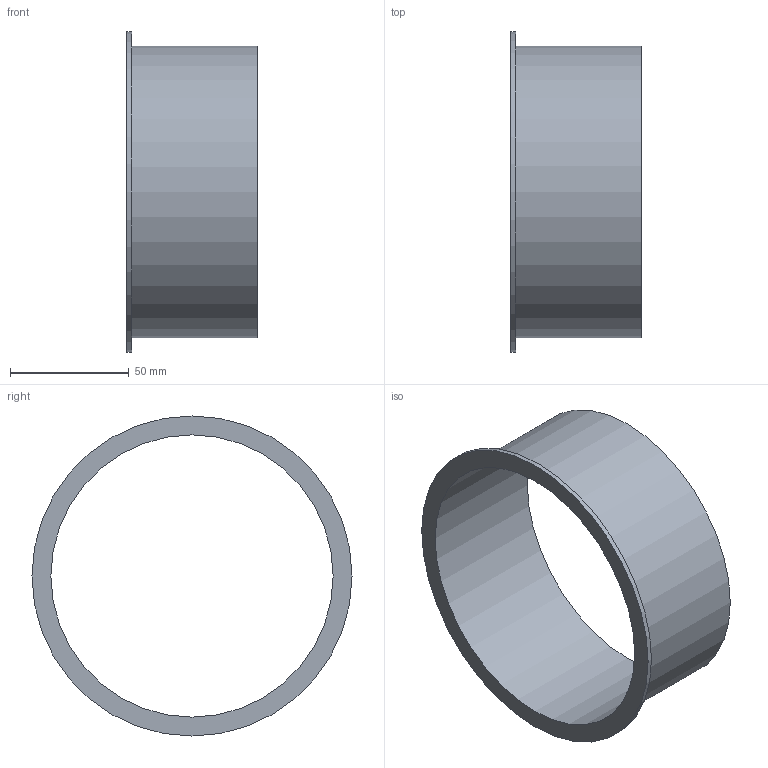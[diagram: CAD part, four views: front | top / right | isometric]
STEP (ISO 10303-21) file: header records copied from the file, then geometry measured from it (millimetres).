
FILE_DESCRIPTION((''),'2;1');
FILE_NAME('U:\Wolfgang\Marcel-3D\fertig\Kapitel 1\1221012.stp','2010-05-31T11:05:20',('TK2'),(''),'Autodesk Inventor 2010','Autodesk Inventor 2010','');
FILE_SCHEMA(('AUTOMOTIVE_DESIGN { 1 0 10303 214 1 1 1 1 }'));
Length unit declared in the file: millimetre
Products named in the file (1): 1221012
Bounding box: 55 x 135 x 135 mm (x, y, z)
Volume: 46677.8 mm3; surface area: 48273.7 mm2
Topology: 1 solids, 1 shells, 6 faces, 9 edges, 6 vertices
Faces by surface type: cylinder 3, plane 3
Full cylindrical faces by diameter (mm): 119 x1, 123 x1, 135 x1
Entity records: 154 total; most frequent: DIRECTION 26, CARTESIAN_POINT 19, AXIS2_PLACEMENT_3D 13, ORIENTED_EDGE 12, EDGE_LOOP 12, VERTEX_POINT 6, CIRCLE 6, EDGE_CURVE 6
